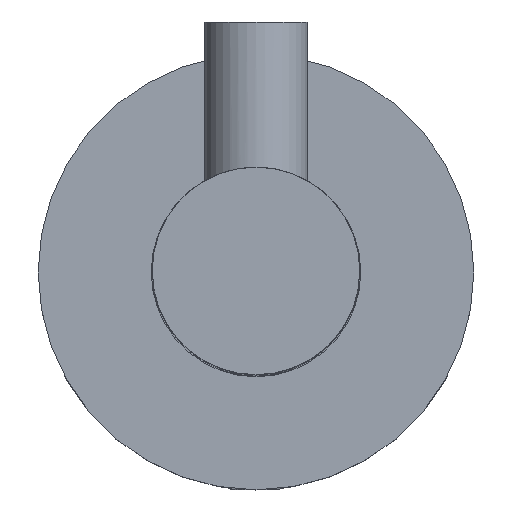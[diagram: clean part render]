
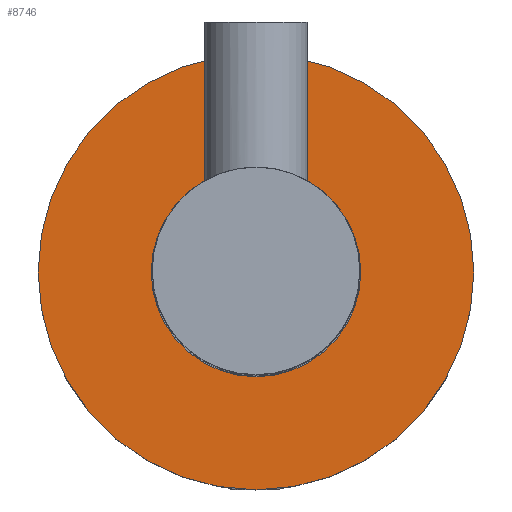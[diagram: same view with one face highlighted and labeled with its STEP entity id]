
A CAD part, top view. The second image highlights one B-rep face of the part: STEP entity #8746.
In plain terms, the highlighted planar face has unit normal (0, 0, 1).
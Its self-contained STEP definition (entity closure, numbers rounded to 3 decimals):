
#189=FACE_BOUND('',#1165,.T.);
#243=PLANE('',#9317);
#644=FACE_OUTER_BOUND('',#1164,.T.);
#1164=EDGE_LOOP('',(#6150,#6151));
#1165=EDGE_LOOP('',(#6152,#6153));
#1721=CIRCLE('',#9315,21.);
#1722=CIRCLE('',#9316,21.);
#1723=CIRCLE('',#9318,10.1);
#1724=CIRCLE('',#9319,10.1);
#3716=VERTEX_POINT('',#13863);
#3717=VERTEX_POINT('',#13864);
#3720=VERTEX_POINT('',#13907);
#3721=VERTEX_POINT('',#13908);
#4661=EDGE_CURVE('',#3716,#3717,#1721,.T.);
#4662=EDGE_CURVE('',#3717,#3716,#1722,.T.);
#4666=EDGE_CURVE('',#3720,#3721,#1723,.T.);
#4667=EDGE_CURVE('',#3721,#3720,#1724,.T.);
#6150=ORIENTED_EDGE('',*,*,#4661,.T.);
#6151=ORIENTED_EDGE('',*,*,#4662,.T.);
#6152=ORIENTED_EDGE('',*,*,#4666,.F.);
#6153=ORIENTED_EDGE('',*,*,#4667,.F.);
#8746=ADVANCED_FACE('',(#644,#189),#243,.T.);
#9315=AXIS2_PLACEMENT_3D('',#13865,#10085,#10086);
#9316=AXIS2_PLACEMENT_3D('',#13866,#10087,#10088);
#9317=AXIS2_PLACEMENT_3D('',#13906,#10090,#10091);
#9318=AXIS2_PLACEMENT_3D('',#13909,#10092,#10093);
#9319=AXIS2_PLACEMENT_3D('',#13910,#10094,#10095);
#10085=DIRECTION('center_axis',(0.,0.,1.));
#10086=DIRECTION('ref_axis',(1.,0.,0.));
#10087=DIRECTION('center_axis',(0.,0.,1.));
#10088=DIRECTION('ref_axis',(1.,0.,0.));
#10090=DIRECTION('center_axis',(0.,0.,1.));
#10091=DIRECTION('ref_axis',(1.,0.,0.));
#10092=DIRECTION('center_axis',(0.,0.,1.));
#10093=DIRECTION('ref_axis',(1.,0.,0.));
#10094=DIRECTION('center_axis',(0.,0.,1.));
#10095=DIRECTION('ref_axis',(1.,0.,0.));
#13863=CARTESIAN_POINT('',(21.,-136.36,136.946));
#13864=CARTESIAN_POINT('',(-21.,-136.36,136.946));
#13865=CARTESIAN_POINT('Origin',(0.,-136.36,136.946));
#13866=CARTESIAN_POINT('Origin',(0.,-136.36,136.946));
#13906=CARTESIAN_POINT('Origin',(0.,-136.36,136.946));
#13907=CARTESIAN_POINT('',(10.1,-136.36,136.946));
#13908=CARTESIAN_POINT('',(-10.1,-136.36,136.946));
#13909=CARTESIAN_POINT('Origin',(0.,-136.36,136.946));
#13910=CARTESIAN_POINT('Origin',(0.,-136.36,136.946));
